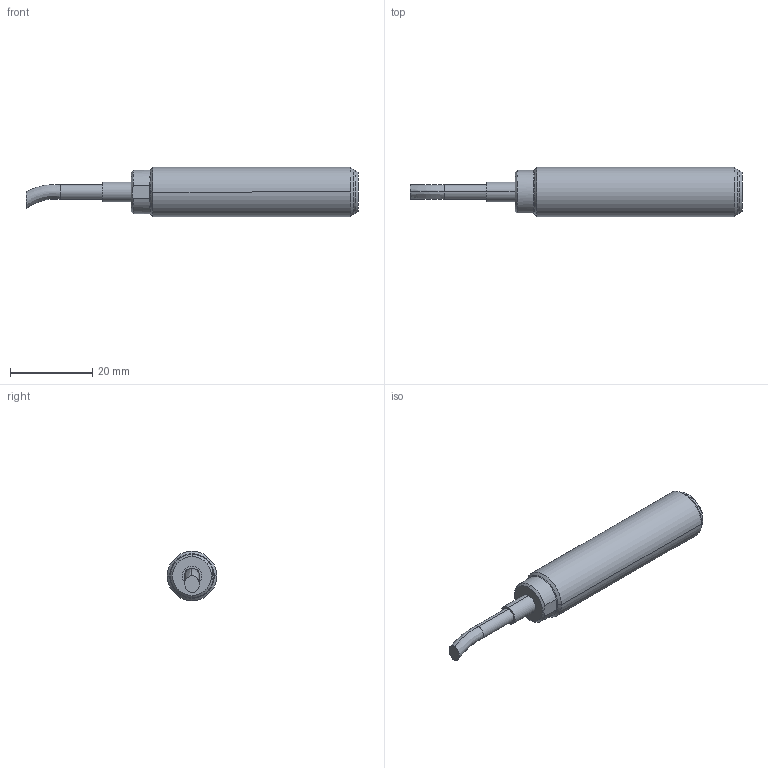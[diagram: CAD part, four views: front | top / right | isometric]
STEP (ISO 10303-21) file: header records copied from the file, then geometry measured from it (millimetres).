
FILE_DESCRIPTION((''),'2;1');
FILE_NAME('MDS_35_M12_CA_HT','2017-03-17T',('11000483'),(''),'CREO PARAMETRIC BY PTC INC, 2016050','CREO PARAMETRIC BY PTC INC, 2016050','');
FILE_SCHEMA(('AUTOMOTIVE_DESIGN { 1 0 10303 214 1 1 1 1 }'));
Length unit declared in the file: millimetre
Products named in the file (1): MDS_35_M12_CA_HT
Bounding box: 80.5 x 12 x 12 mm (x, y, z)
Volume: 2893.3 mm3; surface area: 6292.7 mm2
Topology: 202 solids, 205 shells, 913 faces, 1459 edges, 958 vertices
Faces by surface type: cylinder 443, plane 422, cone 18, torus 16, bspline 14
Entity records: 32556 total; most frequent: CARTESIAN_POINT 8516, DIRECTION 4181, ORIENTED_EDGE 2914, AXIS2_PLACEMENT_3D 1848, PRESENTATION_STYLE_ASSIGNMENT 1696, STYLED_ITEM 1662, CURVE_STYLE 1459, EDGE_CURVE 1459
